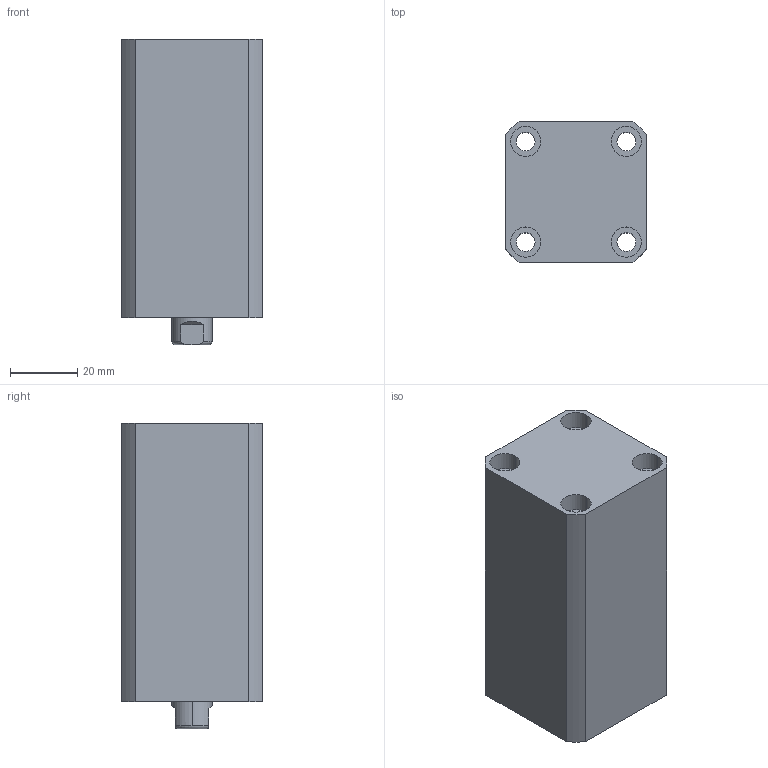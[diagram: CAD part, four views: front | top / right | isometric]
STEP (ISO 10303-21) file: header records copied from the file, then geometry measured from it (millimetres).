
FILE_DESCRIPTION (( 'STEP AP214' ), '1' );
FILE_NAME ('chtb-sd20x40n_asm.STEP', '2018-04-26T11:49:14', ( 'Windows' ), ( 'Microsoft' ), 'SwSTEP 2.0', 'SolidWorks 2015', '' );
FILE_SCHEMA (( 'AUTOMOTIVE_DESIGN' ));
Length unit declared in the file: millimetre
Products named in the file (4): QG; CHTB-SD20X40NHSG; CHTB-SD20X40NBT; chtb-sd20x40n_asm
Assembly tree (3 placements, depth 2):
  chtb-sd20x40n_asm
    CHTB-SD20X40NBT
    CHTB-SD20X40NHSG
    QG
Bounding box: 42 x 42 x 91 mm (x, y, z)
Volume: 123252 mm3; surface area: 37840 mm2
Topology: 3 solids, 3 shells, 192 faces, 499 edges, 330 vertices
Faces by surface type: cylinder 102, plane 36, torus 25, bspline 19, cone 10
Entity records: 10502 total; most frequent: CARTESIAN_POINT 5851, ORIENTED_EDGE 986, DIRECTION 903, EDGE_CURVE 493, AXIS2_PLACEMENT_3D 385, VERTEX_POINT 330, EDGE_LOOP 229, CIRCLE 206
